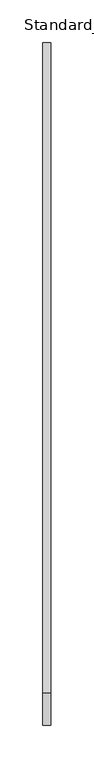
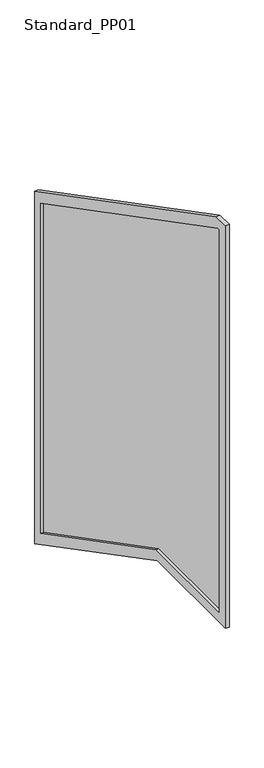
"""IFC4 building model written with IfcOpenShell, lengths in millimetres: railing geometry, Baluster-Landing-Panel-VIVA-STRUC-Lower : Standard_PP01."""

import ifcopenshell
import ifcopenshell.guid

model = None  # the IFC model being written
_history = None  # IfcOwnerHistory: only IFC2X3 demands one
_inside = {}  # id of a spatial element -> (the spatial element, [elements in it])
_under = {}  # id of a project, library or spatial element -> (it, [spatial elements below it])
_declared = {}  # id of a project -> (the project, [libraries it declares])
_typed = {}  # id of a type object -> (the type object, [elements of that type])
_made_of = {}  # id of a material, layer set ... -> (it, [elements and type objects made of it])


def new_model(schema):
    """Start an empty IFC model of exactly this schema.

    Asked for "IFC4X3", IfcOpenShell would pick the latest addendum, in which some entities
    have other attributes; the version numbers below select the first issue.
    IFC2X3 requires an IfcOwnerHistory on every rooted entity: one is made here for all.
    """
    global model, _history
    if schema == "IFC4X3":
        model = ifcopenshell.file(schema_version=(4, 3, 0, 0))
    else:
        model = ifcopenshell.file(schema=schema)
    _inside.clear()
    _under.clear()
    _declared.clear()
    _typed.clear()
    _made_of.clear()
    _history = None
    if model.schema == "IFC2X3":
        org = make("IfcOrganization", Name="unknown")
        user = make(
            "IfcPersonAndOrganization",
            ThePerson=make("IfcPerson", FamilyName="unknown"),
            TheOrganization=org,
        )
        app = make(
            "IfcApplication",
            ApplicationDeveloper=org,
            Version="unknown",
            ApplicationFullName="unknown",
            ApplicationIdentifier="unknown",
        )
        _history = make(
            "IfcOwnerHistory",
            OwningUser=user,
            OwningApplication=app,
            ChangeAction="ADDED",
            CreationDate=0,
        )
    return model


def make(cls, **values):
    """One entity of the class cls with the attributes given. An attribute that is None is left unset."""
    return model.create_entity(
        cls, **{name: value for name, value in values.items() if value is not None}
    )


def rooted(cls, **values):
    """An entity with a GlobalId (a new one), such as an element, a storey or a relation."""
    return make(cls, GlobalId=ifcopenshell.guid.new(), OwnerHistory=_history, **values)


def si_unit(unit_type, name, prefix=None):
    """IfcSIUnit, for example si_unit("LENGTHUNIT", "METRE", prefix="MILLI")."""
    return make("IfcSIUnit", UnitType=unit_type, Prefix=prefix, Name=name)


def assignment(units):
    """IfcUnitAssignment: the units of a project."""
    return None if units is None else make("IfcUnitAssignment", Units=units)


def point(xyz):
    """IfcCartesianPoint."""
    return None if xyz is None else make("IfcCartesianPoint", Coordinates=xyz)


def direction(xyz):
    """IfcDirection."""
    return None if xyz is None else make("IfcDirection", DirectionRatios=xyz)


def frame(location, z_axis=None, x_axis=None):
    """IfcAxis2Placement3D, a coordinate frame: its origin and axes. An axis left out is left unset."""
    return make(
        "IfcAxis2Placement3D",
        Location=point(location),
        Axis=direction(z_axis),
        RefDirection=direction(x_axis),
    )


def origin():
    """The frame at (0, 0, 0) with its axes left unset."""
    return frame((0.0, 0.0, 0.0))


def place(relative_to, where):
    """IfcLocalPlacement: puts the frame where relative to a parent placement (None: the world)."""
    return make(
        "IfcLocalPlacement", PlacementRelTo=relative_to, RelativePlacement=where
    )


def context(
    kind, dimensions, precision=None, world=None, true_north=None, identifier=None
):
    """IfcGeometricRepresentationContext, for example the 3D "Model" context."""
    return make(
        "IfcGeometricRepresentationContext",
        ContextIdentifier=identifier,
        ContextType=kind,
        CoordinateSpaceDimension=dimensions,
        Precision=precision,
        WorldCoordinateSystem=world,
        TrueNorth=true_north,
    )


def project(units=None, contexts=None):
    """IfcProject with its units and contexts."""
    return rooted(
        "IfcProject",
        Name="project",
        RepresentationContexts=contexts,
        UnitsInContext=assignment(units),
    )


def spatial(cls, under=None, at=None, **own):
    """A site, building, storey or space (cls), placed at a placement, below another one or the project."""
    s = rooted(cls, ObjectPlacement=at, **own)
    if under is not None:
        _under.setdefault(under.id(), (under, []))[1].append(s)
    return s


def polyline(points):
    """IfcPolyline through the points."""
    return make("IfcPolyline", Points=[point(p) for p in points])


def outline(outer, holes=None, kind="AREA"):
    """IfcArbitraryClosedProfileDef: a profile drawn as a closed curve; with holes, ...WithVoids."""
    if holes is None:
        return make("IfcArbitraryClosedProfileDef", ProfileType=kind, OuterCurve=outer)
    return make(
        "IfcArbitraryProfileDefWithVoids",
        ProfileType=kind,
        OuterCurve=outer,
        InnerCurves=holes,
    )


def extrude(swept, where, along, depth):
    """IfcExtrudedAreaSolid: the profile swept, set in the frame where, extruded along a direction by depth."""
    return make(
        "IfcExtrudedAreaSolid",
        SweptArea=swept,
        Position=where,
        ExtrudedDirection=direction(along),
        Depth=depth,
    )


def shape(context_of_items, identifier, shape_type, items):
    """IfcShapeRepresentation: the items that make up one representation, for example the "Body"."""
    return make(
        "IfcShapeRepresentation",
        ContextOfItems=context_of_items,
        RepresentationIdentifier=identifier,
        RepresentationType=shape_type,
        Items=items,
    )


def source(mapping_origin, context_of_items, identifier, shape_type, items):
    """IfcRepresentationMap: a shape defined once, which mapped items show again and again."""
    return make(
        "IfcRepresentationMap",
        MappingOrigin=mapping_origin,
        MappedRepresentation=shape(context_of_items, identifier, shape_type, items),
    )


def transform(
    local_origin,
    x_axis=None,
    y_axis=None,
    z_axis=None,
    scale=None,
    scale2=None,
    scale3=None,
    uniform=True,
):
    """IfcCartesianTransformationOperator3D, or its non-uniform kind. x_axis, y_axis, z_axis: its Axis1, 2, 3."""
    if uniform:
        return make(
            "IfcCartesianTransformationOperator3D",
            Axis1=direction(x_axis),
            Axis2=direction(y_axis),
            LocalOrigin=point(local_origin),
            Scale=scale,
            Axis3=direction(z_axis),
        )
    return make(
        "IfcCartesianTransformationOperator3DnonUniform",
        Axis1=direction(x_axis),
        Axis2=direction(y_axis),
        LocalOrigin=point(local_origin),
        Scale=scale,
        Axis3=direction(z_axis),
        Scale2=scale2,
        Scale3=scale3,
    )


def mapped(mapping_source, mapping_target):
    """IfcMappedItem: shows the shape of a source again, moved by a transform."""
    return make(
        "IfcMappedItem", MappingSource=mapping_source, MappingTarget=mapping_target
    )


def made_of(thing, what):
    """Note that an element or type object is made of a material, layer set ...; save() writes the relation."""
    if what is not None:
        _made_of.setdefault(what.id(), (what, []))[1].append(thing)
    return thing


def element(
    cls,
    number,
    at=None,
    inside=None,
    cuts=None,
    type_object=None,
    material=None,
    context=None,
    identifier="Body",
    shape_type=None,
    held_by="IfcProductDefinitionShape",
    body=None,
    shapes=None,
    **own,
):
    """One element of the class cls, such as IfcWall. Its Tag is "e" and its number.

    at: its placement. inside: the storey or other place that contains it. cuts: it is an
    opening in that element (IfcRelVoidsElement). A single representation is given by context,
    identifier, shape_type and body (its items); several are given by shapes. held_by: the class
    of the entity that holds the representations. save() writes the other relations.
    """
    e = rooted(cls, Tag="e%d" % number, ObjectPlacement=at, **own)
    if body is not None:
        shapes = [shape(context, identifier, shape_type, body)]
    if shapes is not None:
        e.Representation = make(held_by, Representations=shapes)
    if inside is not None:
        _inside.setdefault(inside.id(), (inside, []))[1].append(e)
    if cuts is not None:
        rooted(
            "IfcRelVoidsElement", RelatingBuildingElement=cuts, RelatedOpeningElement=e
        )
    if type_object is not None:
        _typed.setdefault(type_object.id(), (type_object, []))[1].append(e)
    return made_of(e, material)


def aggregate(whole, parts):
    """IfcRelAggregates: a whole, such as a stair, and the parts it consists of."""
    return rooted("IfcRelAggregates", RelatingObject=whole, RelatedObjects=parts)


def save(model, path):
    """Write the relations noted so far, then the file.

    IfcRelAggregates (storeys below a building ...), IfcRelContainedInSpatialStructure (elements
    in a storey), IfcRelDefinesByType, IfcRelAssociatesMaterial and IfcRelDeclares: one each for
    every whole, place, type object, material and project.
    """
    for whole, parts in _under.values():
        aggregate(whole, parts)
    for where, things in _inside.values():
        rooted(
            "IfcRelContainedInSpatialStructure",
            RelatedElements=things,
            RelatingStructure=where,
        )
    for kind, things in _typed.values():
        rooted("IfcRelDefinesByType", RelatedObjects=things, RelatingType=kind)
    for what, things in _made_of.values():
        rooted("IfcRelAssociatesMaterial", RelatedObjects=things, RelatingMaterial=what)
    for by, libraries in _declared.values():
        rooted("IfcRelDeclares", RelatingContext=by, RelatedDefinitions=libraries)
    model.write(path)


def standard_pp01_9a46c041(model_context):
    return source(origin(), model_context, "Body", "SweptSolid", [
        extrude(outline(polyline([(-508.8760777, -73.8135019), (-773.9140023, -73.8135019), (-773.9140023, 906.145), (-767.592344, 906.145), (-25.4, 519.7841206), (-25.4, -325.4952177), (-508.8760777, -73.8135019)])), frame((14.2584857, 0.0, 0.0), z_axis=(1.0, 0.0, 0.0), x_axis=(0.0, 1.0, 0.0)), (0.0, 0.0, 1.0), 2.9972),
        extrude(outline(polyline([(0.0, -367.3531222), (-515.0914182, -99.2135019), (-799.3140023, -99.2135019), (-799.3140023, 931.545), (-761.3770035, 931.545), (0.0, 535.1972189), (0.0, -367.3531222)]), holes=[polyline([(-773.9140023, 906.145), (-773.9140023, -73.8135019), (-508.8760777, -73.8135019), (-25.4, -325.4952177), (-25.4, 519.7841206), (-767.592344, 906.145), (-773.9140023, 906.145)])]), frame((7.6036857, 0.0, 0.0), z_axis=(1.0, 0.0, 0.0), x_axis=(0.0, 1.0, 0.0)), (0.0, 0.0, 1.0), 9.652),
    ])


if __name__ == "__main__":
    model = new_model("IFC4")
    model_context = context("Model", 3, world=origin())
    ifc_project = project(units=[si_unit("LENGTHUNIT", "METRE", prefix="MILLI")], contexts=[model_context])
    site = spatial("IfcSite", under=ifc_project)
    building = spatial("IfcBuilding", under=site)
    placement = place(None, origin())
    standard_pp01_shape = standard_pp01_9a46c041(model_context)
    element("IfcRailing", 1, ObjectType="Baluster-Landing-Panel-VIVA-STRUC-Lower : Standard_PP01", at=placement, inside=building, context=model_context, shape_type="MappedRepresentation", body=[
        mapped(standard_pp01_shape, transform((0.0, 0.0, 0.0), x_axis=(1.0, 0.0, 0.0), y_axis=(0.0, 1.0, 0.0), z_axis=(0.0, 0.0, 1.0))),
    ])
    save(model, "model.ifc")
